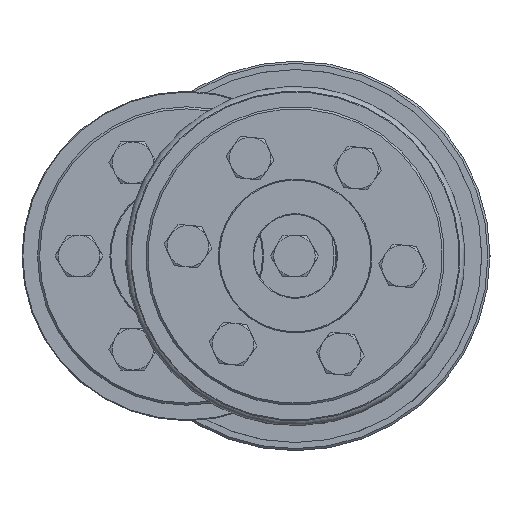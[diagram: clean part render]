
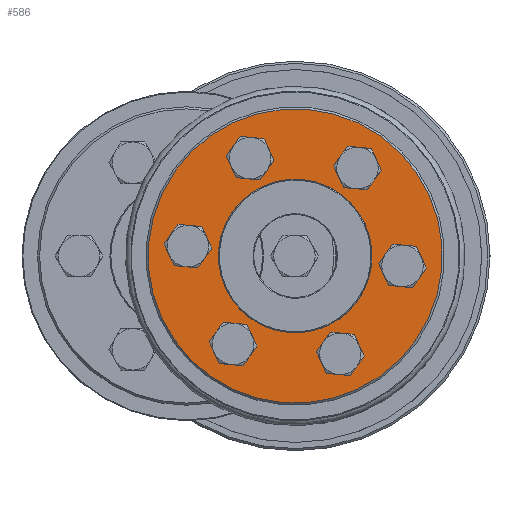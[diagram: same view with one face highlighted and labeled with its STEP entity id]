
A CAD part, left-side view. The second image highlights one B-rep face of the part: STEP entity #586.
In plain terms, the highlighted planar face has unit normal (-1, 0, 0).
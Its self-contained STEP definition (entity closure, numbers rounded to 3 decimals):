
#586 = ADVANCED_FACE( 'NONE', ( #1041, #1042, #1043, #1044, #1045, #1046, #1047, #1048 ), #1049, .F. );
#1041 = FACE_OUTER_BOUND( '', #1759, .T. );
#1042 = FACE_BOUND( '', #1760, .T. );
#1043 = FACE_BOUND( '', #1761, .T. );
#1044 = FACE_BOUND( '', #1762, .T. );
#1045 = FACE_BOUND( '', #1763, .T. );
#1046 = FACE_BOUND( '', #1764, .T. );
#1047 = FACE_BOUND( '', #1765, .T. );
#1048 = FACE_BOUND( '', #1766, .T. );
#1049 = PLANE( '', #1767 );
#1759 = EDGE_LOOP( '', ( #2625 ) );
#1760 = EDGE_LOOP( '', ( #2626 ) );
#1761 = EDGE_LOOP( '', ( #2627 ) );
#1762 = EDGE_LOOP( '', ( #2628 ) );
#1763 = EDGE_LOOP( '', ( #2629 ) );
#1764 = EDGE_LOOP( '', ( #2630 ) );
#1765 = EDGE_LOOP( '', ( #2631 ) );
#1766 = EDGE_LOOP( '', ( #2632 ) );
#1767 = AXIS2_PLACEMENT_3D( '', #2633, #2634, #2635 );
#2625 = ORIENTED_EDGE( '', *, *, #3826, .T. );
#2626 = ORIENTED_EDGE( '', *, *, #3827, .T. );
#2627 = ORIENTED_EDGE( '', *, *, #3828, .T. );
#2628 = ORIENTED_EDGE( '', *, *, #3829, .T. );
#2629 = ORIENTED_EDGE( '', *, *, #3822, .T. );
#2630 = ORIENTED_EDGE( '', *, *, #3820, .T. );
#2631 = ORIENTED_EDGE( '', *, *, #3830, .T. );
#2632 = ORIENTED_EDGE( '', *, *, #3825, .F. );
#2633 = CARTESIAN_POINT( '', ( 0., 18.5, 0. ) );
#2634 = DIRECTION( '', ( 1., 0., 0. ) );
#2635 = DIRECTION( '', ( 0., 1., 0. ) );
#3820 = EDGE_CURVE( 'NONE', #4214, #4214, #4215, .T. );
#3822 = EDGE_CURVE( 'NONE', #4218, #4218, #4219, .T. );
#3825 = EDGE_CURVE( 'NONE', #4224, #4224, #4225, .T. );
#3826 = EDGE_CURVE( 'NONE', #4226, #4226, #4227, .T. );
#3827 = EDGE_CURVE( 'NONE', #4228, #4228, #4229, .T. );
#3828 = EDGE_CURVE( 'NONE', #4230, #4230, #4231, .T. );
#3829 = EDGE_CURVE( 'NONE', #4232, #4232, #4233, .T. );
#3830 = EDGE_CURVE( 'NONE', #4234, #4234, #4235, .T. );
#4214 = VERTEX_POINT( '', #4816 );
#4215 = CIRCLE( '', #4817, 3.3 );
#4218 = VERTEX_POINT( '', #4820 );
#4219 = CIRCLE( '', #4821, 3.3 );
#4224 = VERTEX_POINT( '', #4826 );
#4225 = CIRCLE( '', #4827, 18.5 );
#4226 = VERTEX_POINT( '', #4828 );
#4227 = CIRCLE( '', #4829, 35.5 );
#4228 = VERTEX_POINT( '', #4830 );
#4229 = CIRCLE( '', #4831, 3.3 );
#4230 = VERTEX_POINT( '', #4832 );
#4231 = CIRCLE( '', #4833, 3.3 );
#4232 = VERTEX_POINT( '', #4834 );
#4233 = CIRCLE( '', #4835, 3.3 );
#4234 = VERTEX_POINT( '', #4836 );
#4235 = CIRCLE( '', #4837, 3.3 );
#4816 = CARTESIAN_POINT( '', ( 0., 13., -25.817 ) );
#4817 = AXIS2_PLACEMENT_3D( '', #5801, #5802, #5803 );
#4820 = CARTESIAN_POINT( '', ( 0., -13., -25.817 ) );
#4821 = AXIS2_PLACEMENT_3D( '', #5807, #5808, #5809 );
#4826 = CARTESIAN_POINT( '', ( 0., 0., 18.5 ) );
#4827 = AXIS2_PLACEMENT_3D( '', #5816, #5817, #5818 );
#4828 = CARTESIAN_POINT( '', ( 0., 0., -35.5 ) );
#4829 = AXIS2_PLACEMENT_3D( '', #5819, #5820, #5821 );
#4830 = CARTESIAN_POINT( '', ( 0., 13., 19.217 ) );
#4831 = AXIS2_PLACEMENT_3D( '', #5822, #5823, #5824 );
#4832 = CARTESIAN_POINT( '', ( 0., -13., 19.217 ) );
#4833 = AXIS2_PLACEMENT_3D( '', #5825, #5826, #5827 );
#4834 = CARTESIAN_POINT( '', ( 0., -26., -3.3 ) );
#4835 = AXIS2_PLACEMENT_3D( '', #5828, #5829, #5830 );
#4836 = CARTESIAN_POINT( '', ( 0., 26., -3.3 ) );
#4837 = AXIS2_PLACEMENT_3D( '', #5831, #5832, #5833 );
#5801 = CARTESIAN_POINT( '', ( 0., 13., -22.517 ) );
#5802 = DIRECTION( '', ( 1., 0., 0. ) );
#5803 = DIRECTION( '', ( 0., 0., -1. ) );
#5807 = CARTESIAN_POINT( '', ( 0., -13., -22.517 ) );
#5808 = DIRECTION( '', ( 1., 0., 0. ) );
#5809 = DIRECTION( '', ( 0., 0., -1. ) );
#5816 = CARTESIAN_POINT( '', ( 0., 0., 0. ) );
#5817 = DIRECTION( '', ( -1., 0., 0. ) );
#5818 = DIRECTION( '', ( 0., 0., 1. ) );
#5819 = CARTESIAN_POINT( '', ( 0., 0., 0. ) );
#5820 = DIRECTION( '', ( -1., 0., 0. ) );
#5821 = DIRECTION( '', ( 0., 0., -1. ) );
#5822 = CARTESIAN_POINT( '', ( 0., 13., 22.517 ) );
#5823 = DIRECTION( '', ( 1., 0., 0. ) );
#5824 = DIRECTION( '', ( 0., 0., -1. ) );
#5825 = CARTESIAN_POINT( '', ( 0., -13., 22.517 ) );
#5826 = DIRECTION( '', ( 1., 0., 0. ) );
#5827 = DIRECTION( '', ( 0., 0., -1. ) );
#5828 = CARTESIAN_POINT( '', ( 0., -26., 0. ) );
#5829 = DIRECTION( '', ( 1., 0., 0. ) );
#5830 = DIRECTION( '', ( 0., 0., -1. ) );
#5831 = CARTESIAN_POINT( '', ( 0., 26., 0. ) );
#5832 = DIRECTION( '', ( 1., 0., 0. ) );
#5833 = DIRECTION( '', ( 0., 0., -1. ) );
